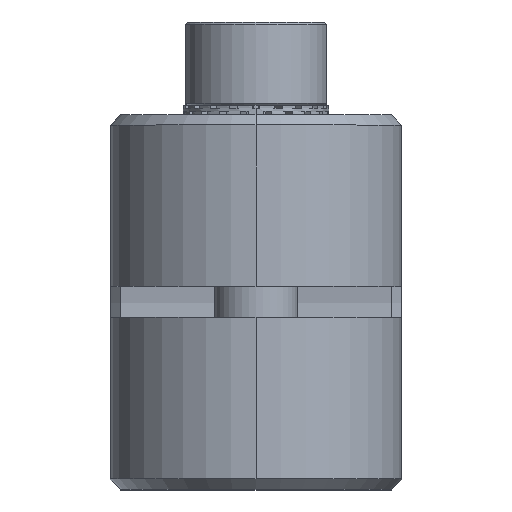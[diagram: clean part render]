
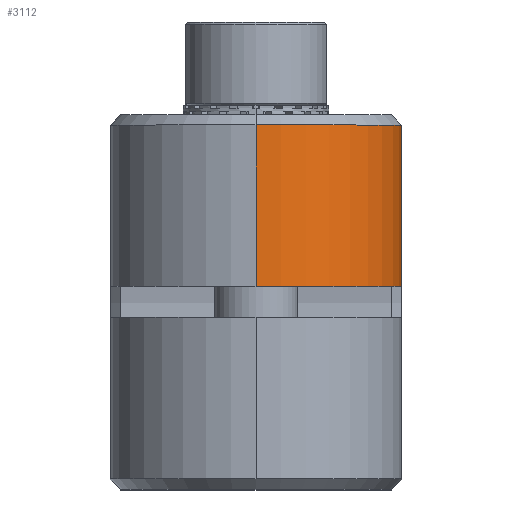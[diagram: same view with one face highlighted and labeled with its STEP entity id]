
A CAD part, top view. The second image highlights one B-rep face of the part: STEP entity #3112.
In plain terms, the highlighted cylindrical face has radius 7 mm (diameter 14 mm), a partial arc.
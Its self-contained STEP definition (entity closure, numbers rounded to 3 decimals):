
#346 = DIRECTION ( 'NONE',  ( 0., 0., -1. ) ) ;
#714 = AXIS2_PLACEMENT_3D ( 'NONE', #8121, #4647, #3619 ) ;
#1275 = CARTESIAN_POINT ( 'NONE',  ( 0., -7., 9.75 ) ) ;
#1456 = EDGE_CURVE ( 'NONE', #3447, #6553, #4486, .T. ) ;
#1706 = CIRCLE ( 'NONE', #9647, 7. ) ;
#1958 = CARTESIAN_POINT ( 'NONE',  ( -7., 0., 17.5 ) ) ;
#2111 = LINE ( 'NONE', #5709, #9809 ) ;
#2448 = AXIS2_PLACEMENT_3D ( 'NONE', #10429, #9744, #11362 ) ;
#2721 = EDGE_CURVE ( 'NONE', #11399, #3447, #2111, .T. ) ;
#2940 = EDGE_CURVE ( 'NONE', #9345, #11399, #1706, .T. ) ;
#3005 = ORIENTED_EDGE ( 'NONE', *, *, #1456, .T. ) ;
#3112 = ADVANCED_FACE ( 'NONE', ( #7370 ), #6507, .T. ) ;
#3238 = VECTOR ( 'NONE', #346, 1000. ) ;
#3447 = VERTEX_POINT ( 'NONE', #8916 ) ;
#3619 = DIRECTION ( 'NONE',  ( -1., 0., 0. ) ) ;
#4486 = CIRCLE ( 'NONE', #2448, 7. ) ;
#4647 = DIRECTION ( 'NONE',  ( 0., 0., -1. ) ) ;
#4735 = LINE ( 'NONE', #8265, #3238 ) ;
#4904 = CARTESIAN_POINT ( 'NONE',  ( 0., 0., 17.5 ) ) ;
#5020 = CARTESIAN_POINT ( 'NONE',  ( 0., -7., 17.5 ) ) ;
#5709 = CARTESIAN_POINT ( 'NONE',  ( -7., 0., 18. ) ) ;
#6507 = CYLINDRICAL_SURFACE ( 'NONE', #714, 7. ) ;
#6553 = VERTEX_POINT ( 'NONE', #1275 ) ;
#7001 = EDGE_LOOP ( 'NONE', ( #10946, #8656, #3005, #11088 ) ) ;
#7370 = FACE_OUTER_BOUND ( 'NONE', #7001, .T. ) ;
#8121 = CARTESIAN_POINT ( 'NONE',  ( 0., 0., 18. ) ) ;
#8265 = CARTESIAN_POINT ( 'NONE',  ( 0., -7., 18. ) ) ;
#8439 = DIRECTION ( 'NONE',  ( 0., 0., -1. ) ) ;
#8656 = ORIENTED_EDGE ( 'NONE', *, *, #2721, .T. ) ;
#8916 = CARTESIAN_POINT ( 'NONE',  ( -7., 0., 9.75 ) ) ;
#9345 = VERTEX_POINT ( 'NONE', #5020 ) ;
#9627 = DIRECTION ( 'NONE',  ( 1., 0., 0. ) ) ;
#9647 = AXIS2_PLACEMENT_3D ( 'NONE', #4904, #8439, #9627 ) ;
#9744 = DIRECTION ( 'NONE',  ( 0., 0., 1. ) ) ;
#9809 = VECTOR ( 'NONE', #10857, 1000. ) ;
#10166 = EDGE_CURVE ( 'NONE', #9345, #6553, #4735, .T. ) ;
#10429 = CARTESIAN_POINT ( 'NONE',  ( 0., 0., 9.75 ) ) ;
#10857 = DIRECTION ( 'NONE',  ( 0., 0., -1. ) ) ;
#10946 = ORIENTED_EDGE ( 'NONE', *, *, #2940, .T. ) ;
#11088 = ORIENTED_EDGE ( 'NONE', *, *, #10166, .F. ) ;
#11362 = DIRECTION ( 'NONE',  ( 1., 0., 0. ) ) ;
#11399 = VERTEX_POINT ( 'NONE', #1958 ) ;
